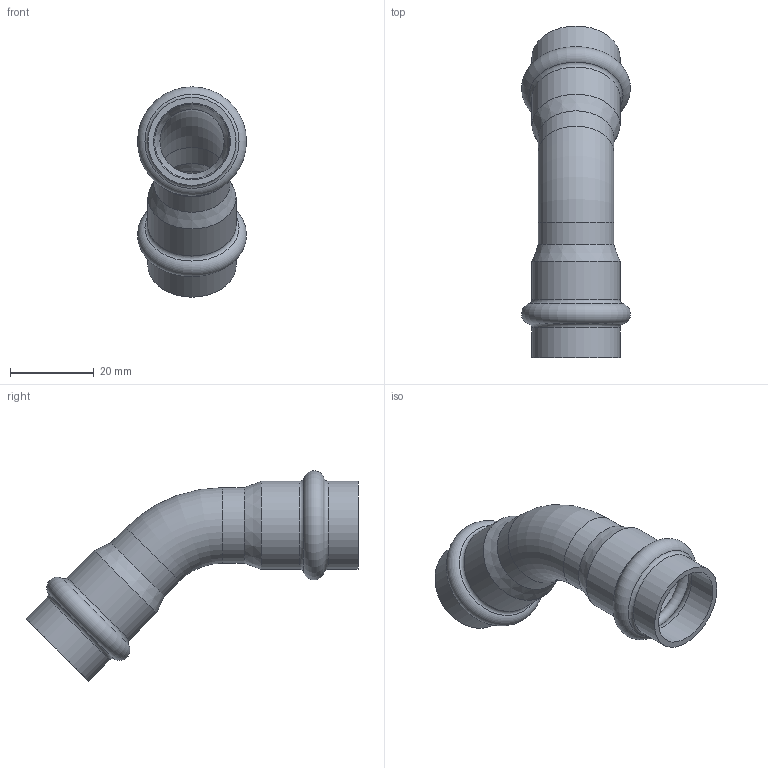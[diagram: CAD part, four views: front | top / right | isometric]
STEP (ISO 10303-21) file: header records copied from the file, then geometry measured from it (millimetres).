
FILE_DESCRIPTION(('STEP AP203'), '1');
FILE_NAME('VTi.959.I.001818', '', ('UNSPECIFIED'), ('UNSPECIFIED'), 'C3D Converter', 'C3D Toolkit', '');
FILE_SCHEMA(('CONFIG_CONTROL_DESIGN'));
Length unit declared in the file: millimetre
Products named in the file (1): ВР.302661.018.000 СБ
Bounding box: 26 x 79.12 x 50.12 mm (x, y, z)
Volume: 7784 mm3; surface area: 11325.5 mm2
Topology: 1 solids, 3 shells, 36 faces, 82 edges, 48 vertices
Faces by surface type: torus 18, cylinder 12, cone 4, plane 2
Full cylindrical faces by diameter (mm): 15.3 x2, 18 x2, 18.3 x4, 21 x4
Entity records: 892 total; most frequent: DIRECTION 170, CARTESIAN_POINT 133, ORIENTED_EDGE 96, AXIS2_PLACEMENT_3D 85, EDGE_LOOP 72, EDGE_CURVE 48, VERTEX_POINT 48, CIRCLE 48
